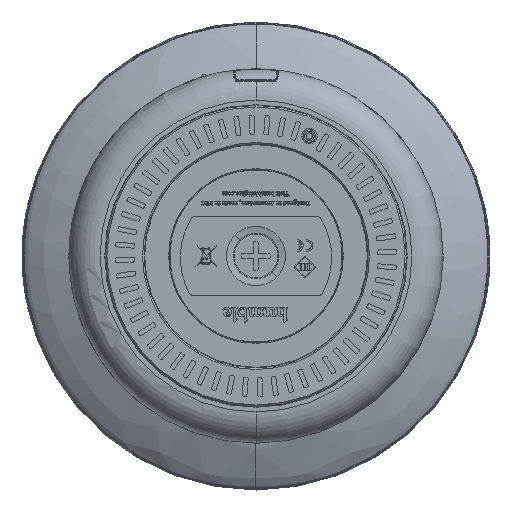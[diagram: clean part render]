
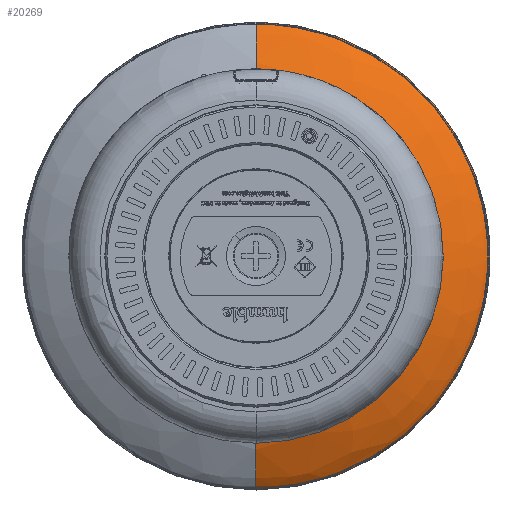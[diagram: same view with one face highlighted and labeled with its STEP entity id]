
A CAD part, front view. The second image highlights one B-rep face of the part: STEP entity #20269.
In plain terms, the highlighted free-form (B-spline) face has degree [3, 3] with [5, 4] control points.
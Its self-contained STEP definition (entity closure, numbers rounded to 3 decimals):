
#399 = EDGE_CURVE ( 'NONE', #62098, #142470, #113206, .T. ) ;
#1859 = CARTESIAN_POINT ( 'NONE',  ( 0., 195.533, 14.066 ) ) ;
#2329 = CARTESIAN_POINT ( 'NONE',  ( 0., 212.984, -75.001 ) ) ;
#7638 = CARTESIAN_POINT ( 'NONE',  ( 23.8, 195.439, 11.9 ) ) ;
#10974 = CARTESIAN_POINT ( 'NONE',  ( 0., 212.984, 0. ) ) ;
#12828 = EDGE_CURVE ( 'NONE', #39539, #45142, #122767, .T. ) ;
#16342 = CARTESIAN_POINT ( 'NONE',  ( 0., 212.984, 75.001 ) ) ;
#19673 = CARTESIAN_POINT ( 'NONE',  ( 150.001, 212.984, 75.001 ) ) ;
#20269 = ADVANCED_FACE ( 'NONE', ( #54943 ), #154099, .F. ) ;
#20449 = CARTESIAN_POINT ( 'NONE',  ( 0., 197.884, -52.786 ) ) ;
#21237 = CARTESIAN_POINT ( 'NONE',  ( 0., 212.984, -75.001 ) ) ;
#21539 = DIRECTION ( 'NONE',  ( 0., 1., 0. ) ) ;
#21568 = ORIENTED_EDGE ( 'NONE', *, *, #399, .F. ) ;
#22583 = B_SPLINE_CURVE_WITH_KNOTS ( 'NONE', 3,
 ( #110091, #98049, #100385, #63338, #2329 ),
 .UNSPECIFIED., .F., .F.,
 ( 4, 1, 4 ),
 ( 0., 0.055, 1. ),
 .UNSPECIFIED. ) ;
#24753 = B_SPLINE_CURVE_WITH_KNOTS ( 'NONE', 3,
 ( #39533, #1859, #40365, #126417, #16342 ),
 .UNSPECIFIED., .F., .F.,
 ( 4, 1, 4 ),
 ( 0., 0.055, 1. ),
 .UNSPECIFIED. ) ;
#32181 = CARTESIAN_POINT ( 'NONE',  ( 0., 212.984, 75.001 ) ) ;
#32469 = CARTESIAN_POINT ( 'NONE',  ( 28.131, 195.533, -14.066 ) ) ;
#36597 = DIRECTION ( 'NONE',  ( 0., 0., 1. ) ) ;
#39533 = CARTESIAN_POINT ( 'NONE',  ( 0., 195.439, 11.9 ) ) ;
#39539 = VERTEX_POINT ( 'NONE', #92322 ) ;
#40365 = CARTESIAN_POINT ( 'NONE',  ( 0., 197.884, 52.786 ) ) ;
#43719 = CARTESIAN_POINT ( 'NONE',  ( 0., 195.439, -11.9 ) ) ;
#44489 = CARTESIAN_POINT ( 'NONE',  ( 0., 197.884, 52.786 ) ) ;
#45142 = VERTEX_POINT ( 'NONE', #113328 ) ;
#46809 = CARTESIAN_POINT ( 'NONE',  ( 28.131, 195.533, 14.066 ) ) ;
#53364 = AXIS2_PLACEMENT_3D ( 'NONE', #93919, #21539, #69682 ) ;
#54943 = FACE_OUTER_BOUND ( 'NONE', #109862, .T. ) ;
#56518 = CARTESIAN_POINT ( 'NONE',  ( 0., 195.533, 14.066 ) ) ;
#62098 = VERTEX_POINT ( 'NONE', #32181 ) ;
#63338 = CARTESIAN_POINT ( 'NONE',  ( 0., 210.505, -74.887 ) ) ;
#69682 = DIRECTION ( 'NONE',  ( 0., 0., 1. ) ) ;
#81540 = CARTESIAN_POINT ( 'NONE',  ( 105.572, 197.884, 52.786 ) ) ;
#91380 = ORIENTED_EDGE ( 'NONE', *, *, #137977, .F. ) ;
#92322 = CARTESIAN_POINT ( 'NONE',  ( 0., 195.439, 11.9 ) ) ;
#93637 = CARTESIAN_POINT ( 'NONE',  ( 0., 195.439, 11.9 ) ) ;
#93919 = CARTESIAN_POINT ( 'NONE',  ( 0., 195.439, 0. ) ) ;
#95989 = CARTESIAN_POINT ( 'NONE',  ( 0., 210.505, -74.887 ) ) ;
#98049 = CARTESIAN_POINT ( 'NONE',  ( 0., 195.533, -14.066 ) ) ;
#100385 = CARTESIAN_POINT ( 'NONE',  ( 0., 197.884, -52.786 ) ) ;
#102946 = ORIENTED_EDGE ( 'NONE', *, *, #130818, .T. ) ;
#105668 = CARTESIAN_POINT ( 'NONE',  ( 0., 210.505, 74.887 ) ) ;
#106439 = CARTESIAN_POINT ( 'NONE',  ( 0., 212.984, 75.001 ) ) ;
#109862 = EDGE_LOOP ( 'NONE', ( #142583, #102946, #21568, #91380 ) ) ;
#110091 = CARTESIAN_POINT ( 'NONE',  ( 0., 195.439, -11.9 ) ) ;
#113206 = CIRCLE ( 'NONE', #115737, 75.001 ) ;
#113328 = CARTESIAN_POINT ( 'NONE',  ( 0., 195.439, -11.9 ) ) ;
#115737 = AXIS2_PLACEMENT_3D ( 'NONE', #10974, #121085, #36597 ) ;
#119288 = CARTESIAN_POINT ( 'NONE',  ( 23.8, 195.439, -11.9 ) ) ;
#120086 = CARTESIAN_POINT ( 'NONE',  ( 0., 195.533, -14.066 ) ) ;
#121085 = DIRECTION ( 'NONE',  ( 0., 1., 0. ) ) ;
#122767 = CIRCLE ( 'NONE', #53364, 11.9 ) ;
#126417 = CARTESIAN_POINT ( 'NONE',  ( 0., 210.505, 74.887 ) ) ;
#129822 = CARTESIAN_POINT ( 'NONE',  ( 149.775, 210.505, 74.887 ) ) ;
#130818 = EDGE_CURVE ( 'NONE', #45142, #142470, #22583, .T. ) ;
#135127 = CARTESIAN_POINT ( 'NONE',  ( 0., 212.984, -75.001 ) ) ;
#137977 = EDGE_CURVE ( 'NONE', #39539, #62098, #24753, .T. ) ;
#141947 = CARTESIAN_POINT ( 'NONE',  ( 150.001, 212.984, -75.001 ) ) ;
#142470 = VERTEX_POINT ( 'NONE', #135127 ) ;
#142583 = ORIENTED_EDGE ( 'NONE', *, *, #12828, .T. ) ;
#144336 = CARTESIAN_POINT ( 'NONE',  ( 105.572, 197.884, -52.786 ) ) ;
#154099 =( BOUNDED_SURFACE ( )  B_SPLINE_SURFACE ( 3, 3, ( 
 ( #93637, #7638, #119288, #43719 ),
 ( #56518, #46809, #32469, #120086 ),
 ( #44489, #81540, #144336, #20449 ),
 ( #105668, #129822, #157213, #95989 ),
 ( #106439, #19673, #141947, #21237 ) ),
 .UNSPECIFIED., .F., .F., .T. ) 
 B_SPLINE_SURFACE_WITH_KNOTS ( ( 4, 1, 4 ),
 ( 4, 4 ),
 ( 0.009, 0.061, 0.969 ),
 ( 0., 1. ),
 .UNSPECIFIED. ) 
 GEOMETRIC_REPRESENTATION_ITEM ( )  RATIONAL_B_SPLINE_SURFACE ( (
 ( 1., 0.333, 0.333, 1.),
 ( 1., 0.333, 0.333, 1.),
 ( 1., 0.333, 0.333, 1.),
 ( 1., 0.333, 0.333, 1.),
 ( 1., 0.333, 0.333, 1.) ) ) 
 REPRESENTATION_ITEM ( '' )  SURFACE ( )  );
#157213 = CARTESIAN_POINT ( 'NONE',  ( 149.775, 210.505, -74.887 ) ) ;
